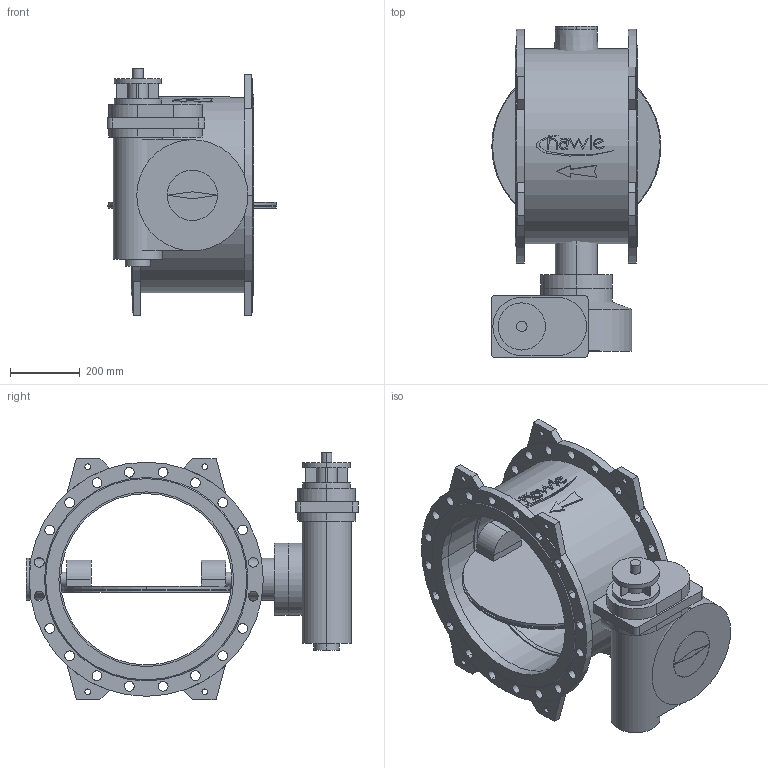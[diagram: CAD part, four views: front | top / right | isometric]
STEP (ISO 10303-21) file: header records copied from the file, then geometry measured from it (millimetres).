
FILE_DESCRIPTION(('STEP AP214'),'1');
FILE_NAME('S:/EK/USER/CAT6/3DHomepage_27-04-2012/neu_08-01-2013/9881K/9881K_PN10_DN500.STP','2013-03-11T14:09:34',(' '),(' '),'Spatial InterOp 3D',' ',' ');
FILE_SCHEMA(('automotive_design'));
Length unit declared in the file: millimetre
Products named in the file (51): 3D-Objekt
Bounding box: 486 x 950 x 708.5 mm (x, y, z)
Volume: 57932162.4 mm3; surface area: 4323624.1 mm2
Topology: 51 solids, 51 shells, 429 faces, 972 edges, 648 vertices
Faces by surface type: plane 212, cylinder 209, cone 8
Entity records: 17003 total; most frequent: DIRECTION 2366, CARTESIAN_POINT 2100, ORIENTED_EDGE 1944, EDGE_CURVE 972, AXIS2_PLACEMENT_3D 914, VERTEX_POINT 648, EDGE_LOOP 540, LINE 538
